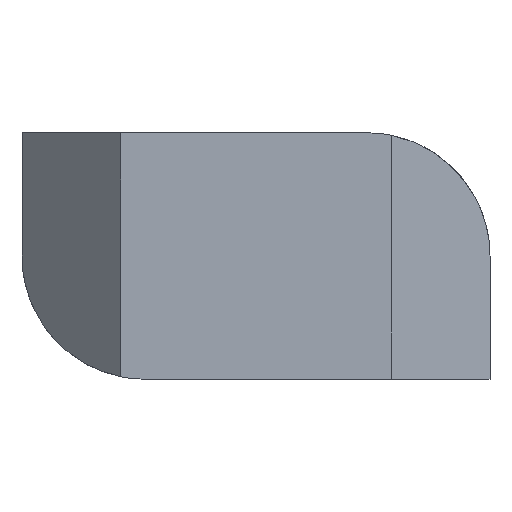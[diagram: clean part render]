
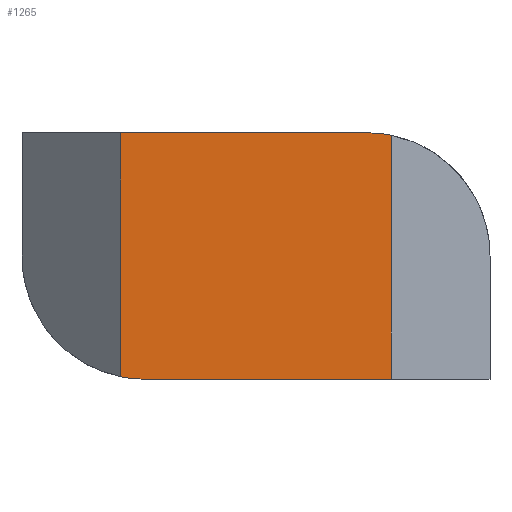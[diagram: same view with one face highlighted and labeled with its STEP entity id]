
A CAD part, front view. The second image highlights one B-rep face of the part: STEP entity #1265.
In plain terms, the highlighted planar face has unit normal (0, -1, 0).
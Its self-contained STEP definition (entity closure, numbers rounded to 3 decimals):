
#26=PLANE('',#1369);
#108=FACE_OUTER_BOUND('',#179,.T.);
#179=EDGE_LOOP('',(#963,#964,#965,#966,#967,#968));
#231=CIRCLE('',#1364,5.);
#232=CIRCLE('',#1370,5.);
#334=LINE('',#3425,#444);
#338=LINE('',#3434,#448);
#339=LINE('',#3436,#449);
#340=LINE('',#3437,#450);
#444=VECTOR('',#1560,1000.);
#448=VECTOR('',#1566,1000.);
#449=VECTOR('',#1569,1000.);
#450=VECTOR('',#1570,1000.);
#568=VERTEX_POINT('',#3376);
#569=VERTEX_POINT('',#3378);
#588=VERTEX_POINT('',#3422);
#589=VERTEX_POINT('',#3424);
#592=VERTEX_POINT('',#3432);
#593=VERTEX_POINT('',#3433);
#717=EDGE_CURVE('',#568,#569,#231,.T.);
#740=EDGE_CURVE('',#589,#588,#334,.T.);
#744=EDGE_CURVE('',#592,#593,#338,.T.);
#745=EDGE_CURVE('',#593,#589,#232,.T.);
#746=EDGE_CURVE('',#569,#588,#339,.T.);
#747=EDGE_CURVE('',#592,#568,#340,.T.);
#963=ORIENTED_EDGE('',*,*,#744,.T.);
#964=ORIENTED_EDGE('',*,*,#745,.T.);
#965=ORIENTED_EDGE('',*,*,#740,.T.);
#966=ORIENTED_EDGE('',*,*,#746,.F.);
#967=ORIENTED_EDGE('',*,*,#717,.F.);
#968=ORIENTED_EDGE('',*,*,#747,.F.);
#1265=ADVANCED_FACE('',(#108),#26,.F.);
#1364=AXIS2_PLACEMENT_3D('',#3379,#1529,#1530);
#1369=AXIS2_PLACEMENT_3D('',#3431,#1564,#1565);
#1370=AXIS2_PLACEMENT_3D('',#3435,#1567,#1568);
#1529=DIRECTION('center_axis',(0.,1.,0.));
#1530=DIRECTION('ref_axis',(-1.,0.,0.));
#1560=DIRECTION('',(1.,0.,0.));
#1564=DIRECTION('center_axis',(0.,1.,0.));
#1565=DIRECTION('ref_axis',(-1.,0.,0.));
#1566=DIRECTION('',(0.,0.,-1.));
#1567=DIRECTION('center_axis',(0.,-1.,0.));
#1568=DIRECTION('ref_axis',(-1.,0.,0.));
#1569=DIRECTION('',(0.,0.,-1.));
#1570=DIRECTION('',(1.,0.,0.));
#3376=CARTESIAN_POINT('',(14.,-6.,10.));
#3378=CARTESIAN_POINT('',(15.,-6.,9.899));
#3379=CARTESIAN_POINT('Origin',(14.,-6.,5.));
#3422=CARTESIAN_POINT('',(15.,-6.,0.));
#3424=CARTESIAN_POINT('',(5.,-6.,0.));
#3425=CARTESIAN_POINT('',(15.,-6.,0.));
#3431=CARTESIAN_POINT('Origin',(15.,-6.,10.));
#3432=CARTESIAN_POINT('',(4.,-6.,10.));
#3433=CARTESIAN_POINT('',(4.,-6.,0.101));
#3434=CARTESIAN_POINT('',(4.,-6.,10.));
#3435=CARTESIAN_POINT('Origin',(5.,-6.,5.));
#3436=CARTESIAN_POINT('',(15.,-6.,10.));
#3437=CARTESIAN_POINT('',(15.,-6.,10.));
